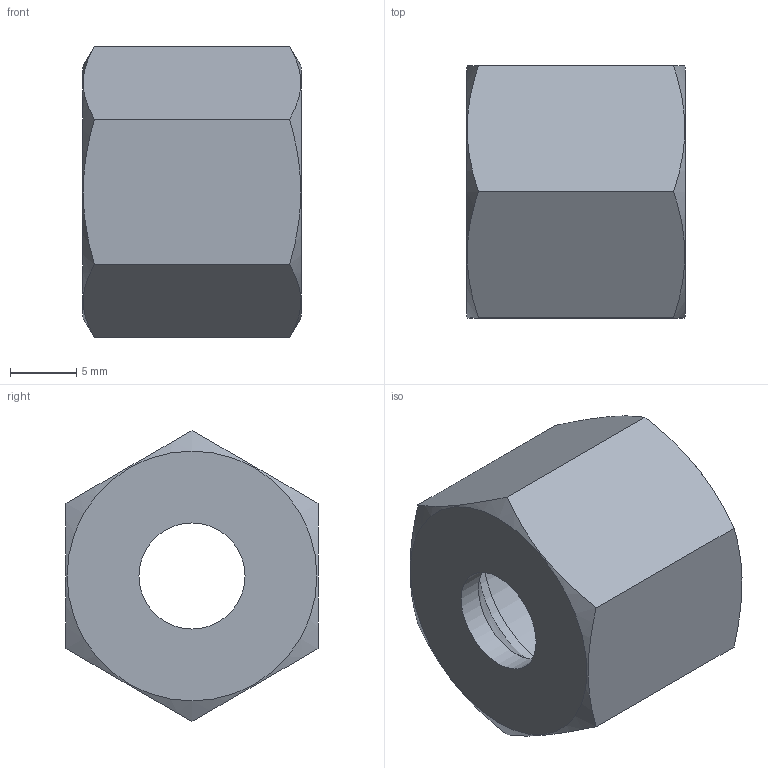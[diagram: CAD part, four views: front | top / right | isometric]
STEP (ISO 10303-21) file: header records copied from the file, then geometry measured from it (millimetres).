
FILE_DESCRIPTION( ( 'Unknown' ), '1' );
FILE_NAME( 'C:/Users/p.nanko/Desktop/3D SR/M08S.stp', 'Unknown', ( 'Peter Nanko' ), ( 'Armaturen Arndt' ), 'PSStep 14.0', 'Solid Edge ST4', ' ' );
FILE_SCHEMA( ( 'AUTOMOTIVE_DESIGN { 1 0 10303 214 1 1 1 1 }' ) );
Length unit declared in the file: millimetre
Products named in the file (1): 1
Bounding box: 16.5 x 19 x 21.94 mm (x, y, z)
Volume: 2836.4 mm3; surface area: 2203.3 mm2
Topology: 1 solids, 1 shells, 16 faces, 36 edges, 23 vertices
Faces by surface type: plane 9, cone 4, cylinder 3
Full cylindrical faces by diameter (mm): 8 x1, 14.376 x2
Entity records: 648 total; most frequent: CARTESIAN_POINT 197, DIRECTION 58, ORIENTED_EDGE 54, EDGE_CURVE 27, AXIS2_PLACEMENT_3D 26, EDGE_LOOP 26, VERTEX_POINT 21, FACE_OUTER_BOUND 19
